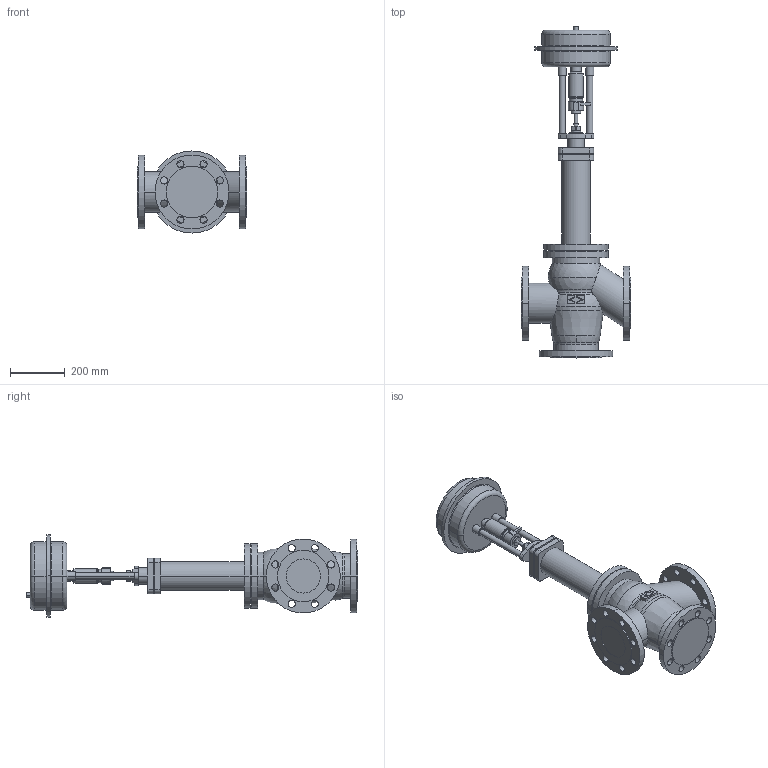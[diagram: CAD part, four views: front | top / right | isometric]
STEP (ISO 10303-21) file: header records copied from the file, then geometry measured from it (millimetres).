
FILE_DESCRIPTION(('OneSpaceDesigner STEP Export'),'2;1');
FILE_NAME('c000000736.stp','2007-01-24T13:13:55',(''),(''),'OneSpace Designer STEP processor for AP214 (Solid Model)','OneSpace Designer 14.00B 27-May-2006 (C) CoCreate Software GmbH','');
FILE_SCHEMA(('AUTOMOTIVE_DESIGN { 1 0 10303 214 1 1 1 1 }'));
Length unit declared in the file: millimetre
Products named in the file (2): 1; 2
Bounding box: 400 x 1212.8 x 300 mm (x, y, z)
Volume: 29455376.6 mm3; surface area: 1254230.6 mm2
Topology: 2 solids, 2 shells, 267 faces, 673 edges, 438 vertices
Faces by surface type: cylinder 136, plane 93, torus 24, sphere 8, cone 6
Entity records: 7337 total; most frequent: CARTESIAN_POINT 1450, ORIENTED_EDGE 1330, DIRECTION 1072, EDGE_CURVE 665, VERTEX_POINT 438, AXIS2_PLACEMENT_3D 397, EDGE_LOOP 351, VECTOR 278
